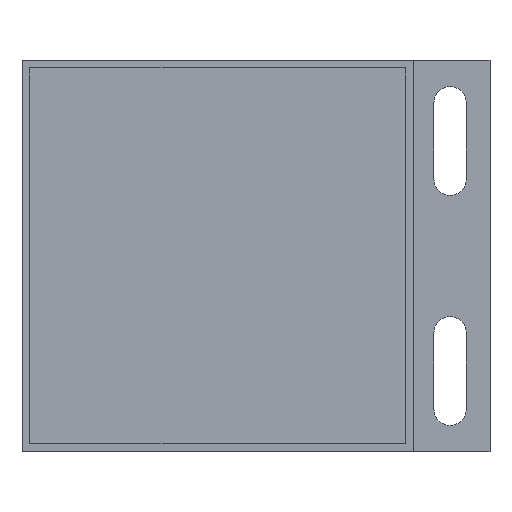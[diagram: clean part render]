
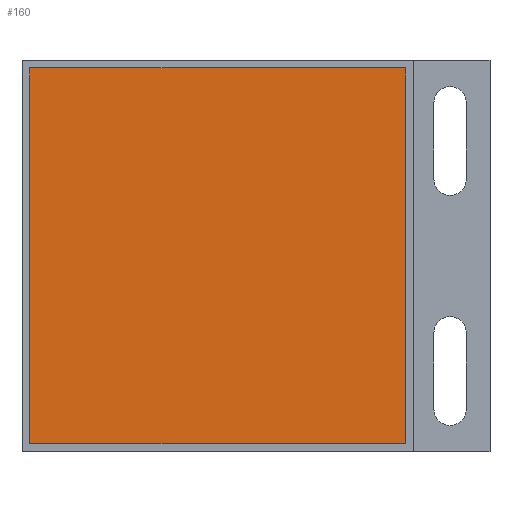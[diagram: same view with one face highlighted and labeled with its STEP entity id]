
A CAD part, top view. The second image highlights one B-rep face of the part: STEP entity #160.
In plain terms, the highlighted planar face has unit normal (0, 0, 1).
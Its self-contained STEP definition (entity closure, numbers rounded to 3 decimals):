
#125=FACE_OUTER_BOUND('',#223,.T.);
#160=ADVANCED_FACE('',(#125),#183,.T.);
#183=PLANE('',#617);
#223=EDGE_LOOP('',(#349,#350,#351,#352));
#349=ORIENTED_EDGE('',*,*,#457,.T.);
#350=ORIENTED_EDGE('',*,*,#461,.T.);
#351=ORIENTED_EDGE('',*,*,#464,.T.);
#352=ORIENTED_EDGE('',*,*,#466,.T.);
#395=VERTEX_POINT('',#865);
#396=VERTEX_POINT('',#867);
#398=VERTEX_POINT('',#873);
#400=VERTEX_POINT('',#879);
#457=EDGE_CURVE('',#396,#395,#515,.T.);
#461=EDGE_CURVE('',#395,#398,#519,.T.);
#464=EDGE_CURVE('',#398,#400,#522,.T.);
#466=EDGE_CURVE('',#400,#396,#524,.T.);
#515=LINE('',#866,#573);
#519=LINE('',#874,#577);
#522=LINE('',#880,#580);
#524=LINE('',#883,#582);
#573=VECTOR('',#727,1.);
#577=VECTOR('',#733,1.);
#580=VECTOR('',#738,1.);
#582=VECTOR('',#742,1.);
#617=AXIS2_PLACEMENT_3D('',#885,#745,#746);
#727=DIRECTION('',(0.,-1.,0.));
#733=DIRECTION('',(1.,0.,0.));
#738=DIRECTION('',(0.,1.,0.));
#742=DIRECTION('',(-1.,0.,0.));
#745=DIRECTION('',(0.,0.,1.));
#746=DIRECTION('',(1.,0.,0.));
#865=CARTESIAN_POINT('',(1.,1.,7.5));
#866=CARTESIAN_POINT('',(1.,50.,7.5));
#867=CARTESIAN_POINT('',(1.,50.,7.5));
#873=CARTESIAN_POINT('',(50.,1.,7.5));
#874=CARTESIAN_POINT('',(1.,1.,7.5));
#879=CARTESIAN_POINT('',(50.,50.,7.5));
#880=CARTESIAN_POINT('',(50.,1.,7.5));
#883=CARTESIAN_POINT('',(50.,50.,7.5));
#885=CARTESIAN_POINT('',(1.,1.,7.5));
